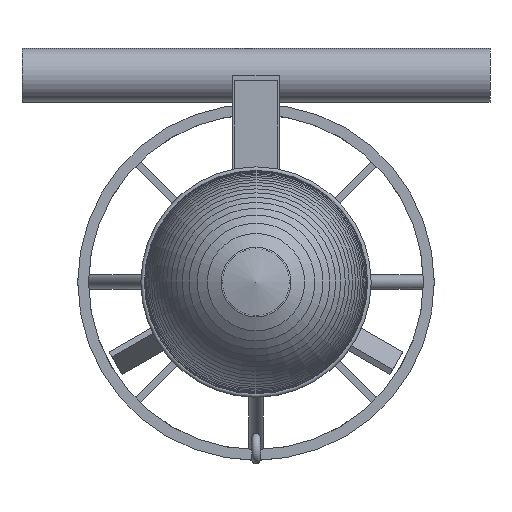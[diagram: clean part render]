
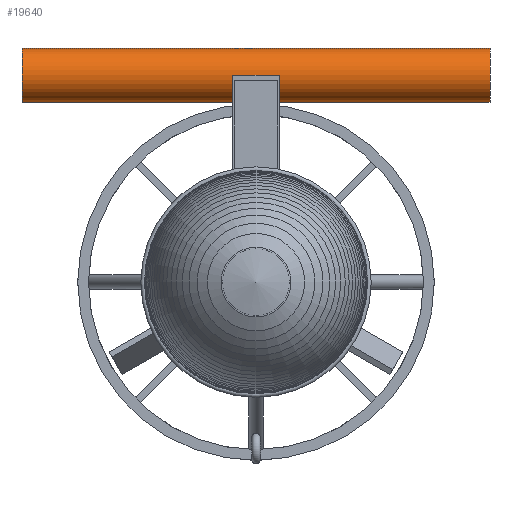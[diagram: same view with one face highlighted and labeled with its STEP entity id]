
A CAD part, left-side view. The second image highlights one B-rep face of the part: STEP entity #19640.
In plain terms, the highlighted cylindrical face has radius 15 mm (diameter 30 mm), a full revolution.
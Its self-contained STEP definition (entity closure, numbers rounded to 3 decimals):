
#19134 = PLANE('',#19135);
#19135 = AXIS2_PLACEMENT_3D('',#19136,#19137,#19138);
#19136 = CARTESIAN_POINT('',(465.,-13.,55.));
#19137 = DIRECTION('',(1.,0.,0.));
#19138 = DIRECTION('',(0.,0.,1.));
#19165 = PLANE('',#19166);
#19166 = AXIS2_PLACEMENT_3D('',#19167,#19168,#19169);
#19167 = CARTESIAN_POINT('',(465.,-13.,55.));
#19168 = DIRECTION('',(0.,1.,0.));
#19169 = DIRECTION('',(0.,0.,1.));
#19193 = PLANE('',#19194);
#19194 = AXIS2_PLACEMENT_3D('',#19195,#19196,#19197);
#19195 = CARTESIAN_POINT('',(495.,-13.,55.));
#19196 = DIRECTION('',(1.,0.,0.));
#19197 = DIRECTION('',(0.,0.,1.));
#19222 = PLANE('',#19223);
#19223 = AXIS2_PLACEMENT_3D('',#19224,#19225,#19226);
#19224 = CARTESIAN_POINT('',(465.,13.,55.));
#19225 = DIRECTION('',(0.,1.,0.));
#19226 = DIRECTION('',(0.,0.,1.));
#19428 = VERTEX_POINT('',#19429);
#19429 = CARTESIAN_POINT('',(465.,-13.,115.));
#19452 = VERTEX_POINT('',#19453);
#19453 = CARTESIAN_POINT('',(465.,13.,115.));
#19474 = EDGE_CURVE('',#19428,#19452,#19475,.T.);
#19475 = SURFACE_CURVE('',#19476,(#19480,#19487),.PCURVE_S1.);
#19476 = LINE('',#19477,#19478);
#19477 = CARTESIAN_POINT('',(465.,-13.,115.));
#19478 = VECTOR('',#19479,1.);
#19479 = DIRECTION('',(0.,1.,0.));
#19480 = PCURVE('',#19134,#19481);
#19481 = DEFINITIONAL_REPRESENTATION('',(#19482),#19486);
#19482 = LINE('',#19483,#19484);
#19483 = CARTESIAN_POINT('',(60.,0.));
#19484 = VECTOR('',#19485,1.);
#19485 = DIRECTION('',(0.,-1.));
#19486 = ( GEOMETRIC_REPRESENTATION_CONTEXT(2) 
PARAMETRIC_REPRESENTATION_CONTEXT() REPRESENTATION_CONTEXT('2D SPACE',''
  ) );
#19487 = PCURVE('',#19488,#19493);
#19488 = CYLINDRICAL_SURFACE('',#19489,15.);
#19489 = AXIS2_PLACEMENT_3D('',#19490,#19491,#19492);
#19490 = CARTESIAN_POINT('',(480.,-130.,115.));
#19491 = DIRECTION('',(0.,-1.,0.));
#19492 = DIRECTION('',(1.,0.,0.));
#19493 = DEFINITIONAL_REPRESENTATION('',(#19494),#19498);
#19494 = LINE('',#19495,#19496);
#19495 = CARTESIAN_POINT('',(3.142,-117.));
#19496 = VECTOR('',#19497,1.);
#19497 = DIRECTION('',(0.,-1.));
#19498 = ( GEOMETRIC_REPRESENTATION_CONTEXT(2) 
PARAMETRIC_REPRESENTATION_CONTEXT() REPRESENTATION_CONTEXT('2D SPACE',''
  ) );
#19504 = VERTEX_POINT('',#19505);
#19505 = CARTESIAN_POINT('',(495.,13.,115.));
#19528 = EDGE_CURVE('',#19452,#19504,#19529,.T.);
#19529 = SURFACE_CURVE('',#19530,(#19535,#19546),.PCURVE_S1.);
#19530 = CIRCLE('',#19531,15.);
#19531 = AXIS2_PLACEMENT_3D('',#19532,#19533,#19534);
#19532 = CARTESIAN_POINT('',(480.,13.,115.));
#19533 = DIRECTION('',(0.,-1.,0.));
#19534 = DIRECTION('',(1.,0.,0.));
#19535 = PCURVE('',#19222,#19536);
#19536 = DEFINITIONAL_REPRESENTATION('',(#19537),#19545);
#19537 = ( BOUNDED_CURVE() B_SPLINE_CURVE(2,(#19538,#19539,#19540,#19541
    ,#19542,#19543,#19544),.UNSPECIFIED.,.T.,.F.) 
B_SPLINE_CURVE_WITH_KNOTS((1,2,2,2,2,1),(-2.094,0.,
    2.094,4.189,6.283,8.378),
.UNSPECIFIED.) CURVE() GEOMETRIC_REPRESENTATION_ITEM() 
RATIONAL_B_SPLINE_CURVE((1.,0.5,1.,0.5,1.,0.5,1.)) REPRESENTATION_ITEM(
  '') );
#19538 = CARTESIAN_POINT('',(60.,30.));
#19539 = CARTESIAN_POINT('',(85.981,30.));
#19540 = CARTESIAN_POINT('',(72.99,7.5));
#19541 = CARTESIAN_POINT('',(60.,-15.));
#19542 = CARTESIAN_POINT('',(47.01,7.5));
#19543 = CARTESIAN_POINT('',(34.019,30.));
#19544 = CARTESIAN_POINT('',(60.,30.));
#19545 = ( GEOMETRIC_REPRESENTATION_CONTEXT(2) 
PARAMETRIC_REPRESENTATION_CONTEXT() REPRESENTATION_CONTEXT('2D SPACE',''
  ) );
#19546 = PCURVE('',#19488,#19547);
#19547 = DEFINITIONAL_REPRESENTATION('',(#19548),#19552);
#19548 = LINE('',#19549,#19550);
#19549 = CARTESIAN_POINT('',(0.,-143.));
#19550 = VECTOR('',#19551,1.);
#19551 = DIRECTION('',(1.,0.));
#19552 = ( GEOMETRIC_REPRESENTATION_CONTEXT(2) 
PARAMETRIC_REPRESENTATION_CONTEXT() REPRESENTATION_CONTEXT('2D SPACE',''
  ) );
#19558 = VERTEX_POINT('',#19559);
#19559 = CARTESIAN_POINT('',(495.,-13.,115.));
#19582 = EDGE_CURVE('',#19558,#19504,#19583,.T.);
#19583 = SURFACE_CURVE('',#19584,(#19588,#19595),.PCURVE_S1.);
#19584 = LINE('',#19585,#19586);
#19585 = CARTESIAN_POINT('',(495.,-13.,115.));
#19586 = VECTOR('',#19587,1.);
#19587 = DIRECTION('',(0.,1.,0.));
#19588 = PCURVE('',#19193,#19589);
#19589 = DEFINITIONAL_REPRESENTATION('',(#19590),#19594);
#19590 = LINE('',#19591,#19592);
#19591 = CARTESIAN_POINT('',(60.,0.));
#19592 = VECTOR('',#19593,1.);
#19593 = DIRECTION('',(0.,-1.));
#19594 = ( GEOMETRIC_REPRESENTATION_CONTEXT(2) 
PARAMETRIC_REPRESENTATION_CONTEXT() REPRESENTATION_CONTEXT('2D SPACE',''
  ) );
#19595 = PCURVE('',#19488,#19596);
#19596 = DEFINITIONAL_REPRESENTATION('',(#19597),#19600);
#19597 = B_SPLINE_CURVE_WITH_KNOTS('',1,(#19598,#19599),.UNSPECIFIED.,
  .F.,.F.,(2,2),(0.,26.),.PIECEWISE_BEZIER_KNOTS.);
#19598 = CARTESIAN_POINT('',(0.,-117.));
#19599 = CARTESIAN_POINT('',(0.,-143.));
#19600 = ( GEOMETRIC_REPRESENTATION_CONTEXT(2) 
PARAMETRIC_REPRESENTATION_CONTEXT() REPRESENTATION_CONTEXT('2D SPACE',''
  ) );
#19608 = EDGE_CURVE('',#19428,#19558,#19609,.T.);
#19609 = SURFACE_CURVE('',#19610,(#19615,#19626),.PCURVE_S1.);
#19610 = CIRCLE('',#19611,15.);
#19611 = AXIS2_PLACEMENT_3D('',#19612,#19613,#19614);
#19612 = CARTESIAN_POINT('',(480.,-13.,115.));
#19613 = DIRECTION('',(0.,-1.,0.));
#19614 = DIRECTION('',(1.,0.,0.));
#19615 = PCURVE('',#19165,#19616);
#19616 = DEFINITIONAL_REPRESENTATION('',(#19617),#19625);
#19617 = ( BOUNDED_CURVE() B_SPLINE_CURVE(2,(#19618,#19619,#19620,#19621
    ,#19622,#19623,#19624),.UNSPECIFIED.,.T.,.F.) 
B_SPLINE_CURVE_WITH_KNOTS((1,2,2,2,2,1),(-2.094,0.,
    2.094,4.189,6.283,8.378),
.UNSPECIFIED.) CURVE() GEOMETRIC_REPRESENTATION_ITEM() 
RATIONAL_B_SPLINE_CURVE((1.,0.5,1.,0.5,1.,0.5,1.)) REPRESENTATION_ITEM(
  '') );
#19618 = CARTESIAN_POINT('',(60.,30.));
#19619 = CARTESIAN_POINT('',(85.981,30.));
#19620 = CARTESIAN_POINT('',(72.99,7.5));
#19621 = CARTESIAN_POINT('',(60.,-15.));
#19622 = CARTESIAN_POINT('',(47.01,7.5));
#19623 = CARTESIAN_POINT('',(34.019,30.));
#19624 = CARTESIAN_POINT('',(60.,30.));
#19625 = ( GEOMETRIC_REPRESENTATION_CONTEXT(2) 
PARAMETRIC_REPRESENTATION_CONTEXT() REPRESENTATION_CONTEXT('2D SPACE',''
  ) );
#19626 = PCURVE('',#19488,#19627);
#19627 = DEFINITIONAL_REPRESENTATION('',(#19628),#19632);
#19628 = LINE('',#19629,#19630);
#19629 = CARTESIAN_POINT('',(0.,-117.));
#19630 = VECTOR('',#19631,1.);
#19631 = DIRECTION('',(1.,0.));
#19632 = ( GEOMETRIC_REPRESENTATION_CONTEXT(2) 
PARAMETRIC_REPRESENTATION_CONTEXT() REPRESENTATION_CONTEXT('2D SPACE',''
  ) );
#19640 = ADVANCED_FACE('',(#19641),#19488,.T.);
#19641 = FACE_BOUND('',#19642,.T.);
#19642 = EDGE_LOOP('',(#19643,#19672,#19693,#19694,#19717,#19744,#19745,
    #19746,#19747,#19748));
#19643 = ORIENTED_EDGE('',*,*,#19644,.F.);
#19644 = EDGE_CURVE('',#19645,#19645,#19647,.T.);
#19645 = VERTEX_POINT('',#19646);
#19646 = CARTESIAN_POINT('',(495.,-130.,115.));
#19647 = SURFACE_CURVE('',#19648,(#19653,#19660),.PCURVE_S1.);
#19648 = CIRCLE('',#19649,15.);
#19649 = AXIS2_PLACEMENT_3D('',#19650,#19651,#19652);
#19650 = CARTESIAN_POINT('',(480.,-130.,115.));
#19651 = DIRECTION('',(0.,-1.,0.));
#19652 = DIRECTION('',(1.,0.,0.));
#19653 = PCURVE('',#19488,#19654);
#19654 = DEFINITIONAL_REPRESENTATION('',(#19655),#19659);
#19655 = LINE('',#19656,#19657);
#19656 = CARTESIAN_POINT('',(0.,0.));
#19657 = VECTOR('',#19658,1.);
#19658 = DIRECTION('',(1.,0.));
#19659 = ( GEOMETRIC_REPRESENTATION_CONTEXT(2) 
PARAMETRIC_REPRESENTATION_CONTEXT() REPRESENTATION_CONTEXT('2D SPACE',''
  ) );
#19660 = PCURVE('',#19661,#19666);
#19661 = PLANE('',#19662);
#19662 = AXIS2_PLACEMENT_3D('',#19663,#19664,#19665);
#19663 = CARTESIAN_POINT('',(480.,-130.,115.));
#19664 = DIRECTION('',(-0.,-1.,-0.));
#19665 = DIRECTION('',(0.,0.,-1.));
#19666 = DEFINITIONAL_REPRESENTATION('',(#19667),#19671);
#19667 = CIRCLE('',#19668,15.);
#19668 = AXIS2_PLACEMENT_2D('',#19669,#19670);
#19669 = CARTESIAN_POINT('',(0.,0.));
#19670 = DIRECTION('',(0.,1.));
#19671 = ( GEOMETRIC_REPRESENTATION_CONTEXT(2) 
PARAMETRIC_REPRESENTATION_CONTEXT() REPRESENTATION_CONTEXT('2D SPACE',''
  ) );
#19672 = ORIENTED_EDGE('',*,*,#19673,.T.);
#19673 = EDGE_CURVE('',#19645,#19558,#19674,.T.);
#19674 = SEAM_CURVE('',#19675,(#19679,#19686),.PCURVE_S1.);
#19675 = LINE('',#19676,#19677);
#19676 = CARTESIAN_POINT('',(495.,-130.,115.));
#19677 = VECTOR('',#19678,1.);
#19678 = DIRECTION('',(-0.,1.,-0.));
#19679 = PCURVE('',#19488,#19680);
#19680 = DEFINITIONAL_REPRESENTATION('',(#19681),#19685);
#19681 = LINE('',#19682,#19683);
#19682 = CARTESIAN_POINT('',(6.283,0.));
#19683 = VECTOR('',#19684,1.);
#19684 = DIRECTION('',(0.,-1.));
#19685 = ( GEOMETRIC_REPRESENTATION_CONTEXT(2) 
PARAMETRIC_REPRESENTATION_CONTEXT() REPRESENTATION_CONTEXT('2D SPACE',''
  ) );
#19686 = PCURVE('',#19488,#19687);
#19687 = DEFINITIONAL_REPRESENTATION('',(#19688),#19692);
#19688 = LINE('',#19689,#19690);
#19689 = CARTESIAN_POINT('',(0.,0.));
#19690 = VECTOR('',#19691,1.);
#19691 = DIRECTION('',(0.,-1.));
#19692 = ( GEOMETRIC_REPRESENTATION_CONTEXT(2) 
PARAMETRIC_REPRESENTATION_CONTEXT() REPRESENTATION_CONTEXT('2D SPACE',''
  ) );
#19693 = ORIENTED_EDGE('',*,*,#19582,.T.);
#19694 = ORIENTED_EDGE('',*,*,#19695,.T.);
#19695 = EDGE_CURVE('',#19504,#19696,#19698,.T.);
#19696 = VERTEX_POINT('',#19697);
#19697 = CARTESIAN_POINT('',(495.,130.,115.));
#19698 = SEAM_CURVE('',#19699,(#19703,#19710),.PCURVE_S1.);
#19699 = LINE('',#19700,#19701);
#19700 = CARTESIAN_POINT('',(495.,-130.,115.));
#19701 = VECTOR('',#19702,1.);
#19702 = DIRECTION('',(-0.,1.,-0.));
#19703 = PCURVE('',#19488,#19704);
#19704 = DEFINITIONAL_REPRESENTATION('',(#19705),#19709);
#19705 = LINE('',#19706,#19707);
#19706 = CARTESIAN_POINT('',(6.283,0.));
#19707 = VECTOR('',#19708,1.);
#19708 = DIRECTION('',(0.,-1.));
#19709 = ( GEOMETRIC_REPRESENTATION_CONTEXT(2) 
PARAMETRIC_REPRESENTATION_CONTEXT() REPRESENTATION_CONTEXT('2D SPACE',''
  ) );
#19710 = PCURVE('',#19488,#19711);
#19711 = DEFINITIONAL_REPRESENTATION('',(#19712),#19716);
#19712 = LINE('',#19713,#19714);
#19713 = CARTESIAN_POINT('',(0.,0.));
#19714 = VECTOR('',#19715,1.);
#19715 = DIRECTION('',(0.,-1.));
#19716 = ( GEOMETRIC_REPRESENTATION_CONTEXT(2) 
PARAMETRIC_REPRESENTATION_CONTEXT() REPRESENTATION_CONTEXT('2D SPACE',''
  ) );
#19717 = ORIENTED_EDGE('',*,*,#19718,.T.);
#19718 = EDGE_CURVE('',#19696,#19696,#19719,.T.);
#19719 = SURFACE_CURVE('',#19720,(#19725,#19732),.PCURVE_S1.);
#19720 = CIRCLE('',#19721,15.);
#19721 = AXIS2_PLACEMENT_3D('',#19722,#19723,#19724);
#19722 = CARTESIAN_POINT('',(480.,130.,115.));
#19723 = DIRECTION('',(0.,-1.,0.));
#19724 = DIRECTION('',(1.,0.,0.));
#19725 = PCURVE('',#19488,#19726);
#19726 = DEFINITIONAL_REPRESENTATION('',(#19727),#19731);
#19727 = LINE('',#19728,#19729);
#19728 = CARTESIAN_POINT('',(0.,-260.));
#19729 = VECTOR('',#19730,1.);
#19730 = DIRECTION('',(1.,0.));
#19731 = ( GEOMETRIC_REPRESENTATION_CONTEXT(2) 
PARAMETRIC_REPRESENTATION_CONTEXT() REPRESENTATION_CONTEXT('2D SPACE',''
  ) );
#19732 = PCURVE('',#19733,#19738);
#19733 = PLANE('',#19734);
#19734 = AXIS2_PLACEMENT_3D('',#19735,#19736,#19737);
#19735 = CARTESIAN_POINT('',(480.,130.,115.));
#19736 = DIRECTION('',(-0.,-1.,-0.));
#19737 = DIRECTION('',(0.,0.,-1.));
#19738 = DEFINITIONAL_REPRESENTATION('',(#19739),#19743);
#19739 = CIRCLE('',#19740,15.);
#19740 = AXIS2_PLACEMENT_2D('',#19741,#19742);
#19741 = CARTESIAN_POINT('',(0.,0.));
#19742 = DIRECTION('',(0.,1.));
#19743 = ( GEOMETRIC_REPRESENTATION_CONTEXT(2) 
PARAMETRIC_REPRESENTATION_CONTEXT() REPRESENTATION_CONTEXT('2D SPACE',''
  ) );
#19744 = ORIENTED_EDGE('',*,*,#19695,.F.);
#19745 = ORIENTED_EDGE('',*,*,#19528,.F.);
#19746 = ORIENTED_EDGE('',*,*,#19474,.F.);
#19747 = ORIENTED_EDGE('',*,*,#19608,.T.);
#19748 = ORIENTED_EDGE('',*,*,#19673,.F.);
